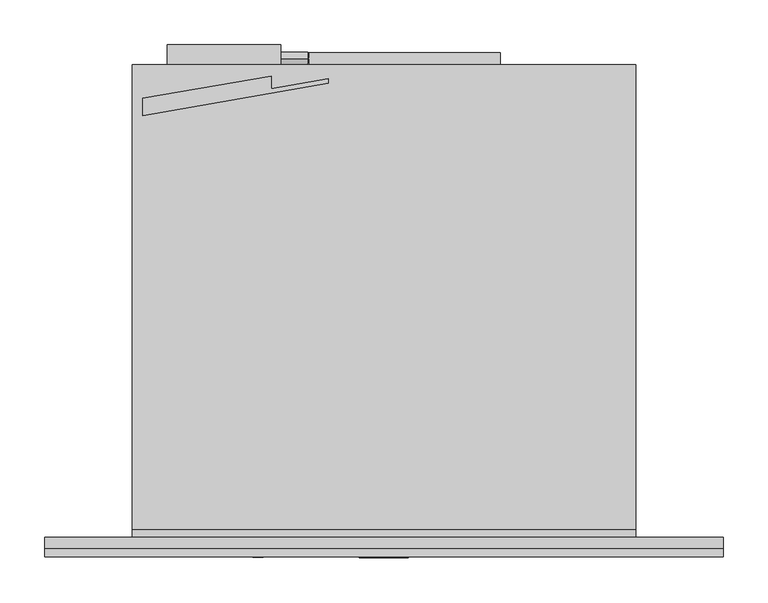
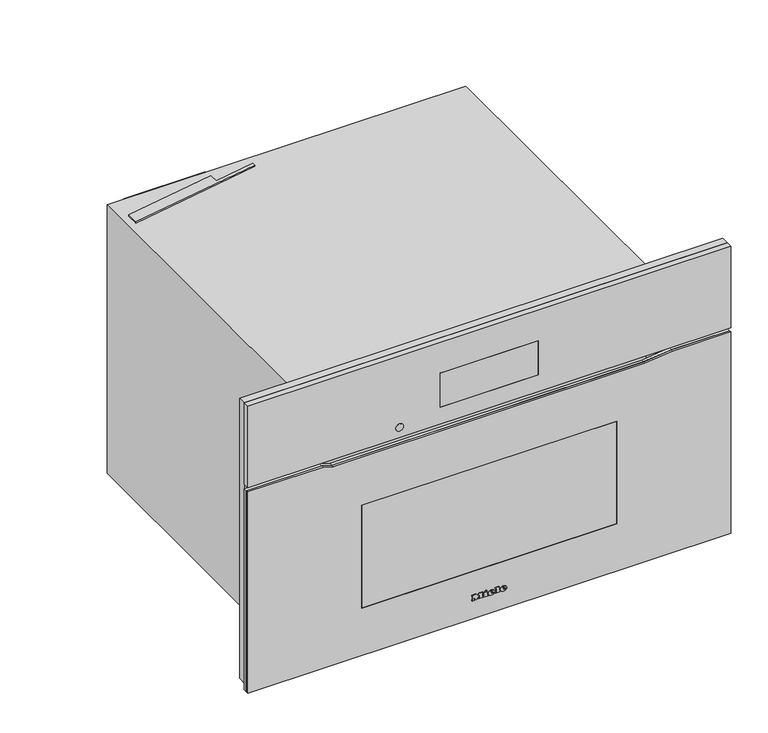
"""IFC4 building model written with IfcOpenShell, lengths in millimetres: proxy geometry, 12842590_USA_H7870BMX_OBSW : 22787066_USA_12842590_H7870BMX_OBSW."""

from ifc_helpers import new_model, si_unit, point, frame, frame_2d, origin, place, context, project, spatial, polyline, circle_curve, ellipse_curve, trimmed, segment, composite_curve, outline, extrude, faceted_brep, source, transform, mapped, element, save
from ifc_brep_helpers import plane_surface, cylinder_surface, revolved_surface, extruded_surface, advanced_brep


def specialty_equipment_b06b4cf4(model_context):
    return source(origin(), model_context, "Body", "SolidModel", [
        advanced_brep(
        [(21.28, -23.0, 36.133), (21.28, -23.0, 37.042), (27.301, -23.0, 37.042), (16.825, -23.0, 37.042), (19.3, -23.0, 34.0), (27.148, -23.0, 36.133), (24.43, -23.0, 36.133), (22.288, -23.0, 35.125), (21.28, -23.0, 38.194), (21.28, -23.0, 39.175), (22.819, -23.0, 39.175), (22.819, -23.0, 38.194), (21.28, -22.0, 36.133), (22.288, -22.0, 35.125), (24.43, -22.0, 36.133), (27.148, -22.0, 36.133), (19.3, -22.0, 34.0), (16.825, -22.0, 37.042), (27.301, -22.0, 37.042), (21.28, -22.0, 37.042), (21.28, -22.0, 38.194), (22.819, -22.0, 38.194), (22.819, -22.0, 39.175), (21.28, -22.0, 39.175)],
        [
            (0, 1),
            (1, 2),
            (2, 3, ellipse_curve(frame((22.063, -23.0, 37.042), z_axis=(0.0, -1.0, 0.0), x_axis=(-1.0, 0.0, 0.0)), 5.238, 4.329)),
            (3, 4, circle_curve(frame((20.3080491, -23.0, 37.348), z_axis=(0.0, -1.0, 0.0), x_axis=(0.0, 0.0, -1.0)), 3.4964649)),
            (4, 5, circle_curve(frame((21.9581428, -23.0, 39.724), z_axis=(0.0, -1.0, 0.0), x_axis=(0.0, 0.0, -1.0)), 6.3110933)),
            (5, 6),
            (6, 7, circle_curve(frame((22.7279412, -23.0, 36.97), z_axis=(0.0, 1.0, 0.0), x_axis=(0.0, 0.0, -1.0)), 1.896727)),
            (7, 0, circle_curve(frame((22.288, -23.0, 36.133), z_axis=(0.0, 1.0, 0.0), x_axis=(0.0, 0.0, -1.0)), 1.008)),
            (8, 9),
            (9, 10, circle_curve(frame((22.0495, -23.0, 39.175), z_axis=(0.0, 1.0, 0.0), x_axis=(0.0, 0.0, -1.0)), 0.7695)),
            (10, 11),
            (11, 8),
            (12, 13, circle_curve(frame((22.288, -22.0, 36.133), z_axis=(0.0, -1.0, 0.0), x_axis=(0.0, 0.0, -1.0)), 1.008)),
            (13, 14, circle_curve(frame((22.7279412, -22.0, 36.97), z_axis=(0.0, -1.0, 0.0), x_axis=(0.0, 0.0, -1.0)), 1.896727)),
            (14, 15),
            (15, 16, circle_curve(frame((21.9581428, -22.0, 39.724), z_axis=(0.0, 1.0, 0.0), x_axis=(0.0, 0.0, -1.0)), 6.3110933)),
            (16, 17, circle_curve(frame((20.3080491, -22.0, 37.348), z_axis=(0.0, 1.0, 0.0), x_axis=(0.0, 0.0, -1.0)), 3.4964649)),
            (17, 18, ellipse_curve(frame((22.063, -22.0, 37.042), z_axis=(0.0, 1.0, 0.0), x_axis=(-1.0, 0.0, 0.0)), 5.238, 4.329)),
            (18, 19),
            (19, 12),
            (20, 21),
            (21, 22),
            (22, 23, circle_curve(frame((22.0495, -22.0, 39.175), z_axis=(0.0, -1.0, 0.0), x_axis=(0.0, 0.0, -1.0)), 0.7695)),
            (23, 20),
            (0, 12),
            (19, 1),
            (18, 2),
            (5, 15),
            (14, 6),
            (17, 3),
            (13, 7),
            (16, 4),
            (8, 20),
            (23, 9),
            (22, 10),
            (21, 11),
        ],
        [
            plane_surface(frame((21.28, -23.0, 37.042), z_axis=(0.0, -1.0, 0.0), x_axis=(0.0, 0.0, 1.0))),
            plane_surface(frame((21.28, -22.0, 37.042), z_axis=(0.0, 1.0, 0.0), x_axis=(0.0, 0.0, -1.0))),
            plane_surface(frame((21.28, -23.0, 36.133), z_axis=(1.0, 0.0, 0.0), x_axis=(0.0, 1.0, 0.0))),
            plane_surface(frame((21.28, -23.0, 37.042), z_axis=(0.0, 0.0, -1.0), x_axis=(0.0, 1.0, 0.0))),
            plane_surface(frame((27.148, -23.0, 36.133), z_axis=(0.0, 0.0, 1.0), x_axis=(0.0, 1.0, 0.0))),
            extruded_surface(trimmed(ellipse_curve(frame((22.063, -21.0, 37.042), z_axis=(0.0, -1.0, 0.0), x_axis=(-1.0, 0.0, 0.0)), 5.238, 4.329), [point((27.301, -21.0, 37.042))], [point((16.825, -21.0, 37.042))], True, "CARTESIAN"), (0.0, -1.0, 0.0), 1.0),
            revolved_surface(polyline([(22.7279412, -22.0, 35.073273), (22.7279412, -23.0, 35.073273)]), (22.7279412, -22.0, 36.97), (0.0, 1.0, 0.0)),
            revolved_surface(polyline([(22.288, -22.0, 35.125), (22.288, -23.0, 35.125)]), (22.288, -22.0, 36.133), (0.0, 1.0, 0.0)),
            cylinder_surface(frame((20.3080491, -22.0, 37.348), z_axis=(0.0, -1.0, 0.0), x_axis=(0.0, 0.0, -1.0)), 3.4964649),
            cylinder_surface(frame((21.9581428, -22.0, 39.724), z_axis=(0.0, -1.0, 0.0), x_axis=(0.0, 0.0, -1.0)), 6.3110933),
            plane_surface(frame((21.28, -23.0, 38.194), z_axis=(1.0, 0.0, 0.0), x_axis=(0.0, 1.0, 0.0))),
            revolved_surface(polyline([(22.0495, -22.0, 38.405499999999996), (22.0495, -23.0, 38.405499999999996)]), (22.0495, -22.0, 39.175), (0.0, 1.0, 0.0)),
            plane_surface(frame((22.819, -23.0, 39.175), z_axis=(-1.0, 0.0, 0.0), x_axis=(0.0, 1.0, 0.0))),
            plane_surface(frame((22.819, -23.0, 38.194), z_axis=(0.0, 0.0, 1.0), x_axis=(0.0, 1.0, 0.0))),
        ],
        [
            (0, [[1, 2, 3, 4, 5, 6, 7, 8], [9, 10, 11, 12]]),
            (1, [[13, 14, 15, 16, 17, 18, 19, 20], [21, 22, 23, 24]]),
            (2, [[-1, 25, -20, 26]]),
            (3, [[-2, -26, -19, 27]]),
            (4, [[-6, 28, -15, 29]]),
            (5, [[-3, -27, -18, 30]]),
            (6, [[-7, -29, -14, 31]]),
            (7, [[-8, -31, -13, -25]]),
            (8, [[-4, -30, -17, 32]]),
            (9, [[-5, -32, -16, -28]]),
            (10, [[-9, 33, -24, 34]]),
            (11, [[-10, -34, -23, 35]]),
            (12, [[-11, -35, -22, 36]]),
            (13, [[-12, -36, -21, -33]]),
        ],
    ),
        advanced_brep(
        [(2.497, -23.0, 36.133), (2.497, -23.0, 37.042), (8.518, -23.0, 37.042), (-1.958, -23.0, 37.042), (0.517, -23.0, 34.0), (8.365, -23.0, 36.133), (5.647, -23.0, 36.133), (3.505, -23.0, 35.125), (2.497, -23.0, 38.194), (2.497, -23.0, 39.175), (4.036, -23.0, 39.175), (4.036, -23.0, 38.194), (2.497, -22.0, 36.133), (3.505, -22.0, 35.125), (5.647, -22.0, 36.133), (8.365, -22.0, 36.133), (0.517, -22.0, 34.0), (-1.958, -22.0, 37.042), (8.518, -22.0, 37.042), (2.497, -22.0, 37.042), (2.497, -22.0, 38.194), (4.036, -22.0, 38.194), (4.036, -22.0, 39.175), (2.497, -22.0, 39.175)],
        [
            (0, 1),
            (1, 2),
            (2, 3, ellipse_curve(frame((3.28, -23.0, 37.042), z_axis=(0.0, -1.0, 0.0), x_axis=(-1.0, 0.0, 0.0)), 5.238, 4.329)),
            (3, 4, circle_curve(frame((1.5250491, -23.0, 37.348), z_axis=(0.0, -1.0, 0.0), x_axis=(0.0, 0.0, -1.0)), 3.4964649)),
            (4, 5, circle_curve(frame((3.1751428, -23.0, 39.724), z_axis=(0.0, -1.0, 0.0), x_axis=(0.0, 0.0, -1.0)), 6.3110933)),
            (5, 6),
            (6, 7, circle_curve(frame((3.9449412, -23.0, 36.97), z_axis=(0.0, 1.0, 0.0), x_axis=(0.0, 0.0, -1.0)), 1.896727)),
            (7, 0, circle_curve(frame((3.505, -23.0, 36.133), z_axis=(0.0, 1.0, 0.0), x_axis=(0.0, 0.0, -1.0)), 1.008)),
            (8, 9),
            (9, 10, circle_curve(frame((3.2665, -23.0, 39.175), z_axis=(0.0, 1.0, 0.0), x_axis=(0.0, 0.0, -1.0)), 0.7695)),
            (10, 11),
            (11, 8),
            (12, 13, circle_curve(frame((3.505, -22.0, 36.133), z_axis=(0.0, -1.0, 0.0), x_axis=(0.0, 0.0, -1.0)), 1.008)),
            (13, 14, circle_curve(frame((3.9449412, -22.0, 36.97), z_axis=(0.0, -1.0, 0.0), x_axis=(0.0, 0.0, -1.0)), 1.896727)),
            (14, 15),
            (15, 16, circle_curve(frame((3.1751428, -22.0, 39.724), z_axis=(0.0, 1.0, 0.0), x_axis=(0.0, 0.0, -1.0)), 6.3110933)),
            (16, 17, circle_curve(frame((1.5250491, -22.0, 37.348), z_axis=(0.0, 1.0, 0.0), x_axis=(0.0, 0.0, -1.0)), 3.4964649)),
            (17, 18, ellipse_curve(frame((3.28, -22.0, 37.042), z_axis=(0.0, 1.0, 0.0), x_axis=(-1.0, 0.0, 0.0)), 5.238, 4.329)),
            (18, 19),
            (19, 12),
            (20, 21),
            (21, 22),
            (22, 23, circle_curve(frame((3.2665, -22.0, 39.175), z_axis=(0.0, -1.0, 0.0), x_axis=(0.0, 0.0, -1.0)), 0.7695)),
            (23, 20),
            (0, 12),
            (19, 1),
            (18, 2),
            (5, 15),
            (14, 6),
            (17, 3),
            (13, 7),
            (16, 4),
            (8, 20),
            (23, 9),
            (22, 10),
            (21, 11),
        ],
        [
            plane_surface(frame((2.497, -23.0, 37.042), z_axis=(0.0, -1.0, 0.0), x_axis=(0.0, 0.0, 1.0))),
            plane_surface(frame((2.497, -22.0, 37.042), z_axis=(0.0, 1.0, 0.0), x_axis=(0.0, 0.0, -1.0))),
            plane_surface(frame((2.497, -23.0, 36.133), z_axis=(1.0, 0.0, 0.0), x_axis=(0.0, 1.0, 0.0))),
            plane_surface(frame((2.497, -23.0, 37.042), z_axis=(0.0, 0.0, -1.0), x_axis=(0.0, 1.0, 0.0))),
            plane_surface(frame((8.365, -23.0, 36.133), z_axis=(0.0, 0.0, 1.0), x_axis=(0.0, 1.0, 0.0))),
            extruded_surface(trimmed(ellipse_curve(frame((3.28, -21.0, 37.042), z_axis=(0.0, -1.0, 0.0), x_axis=(-1.0, 0.0, 0.0)), 5.238, 4.329), [point((8.518, -21.0, 37.042))], [point((-1.958, -21.0, 37.042))], True, "CARTESIAN"), (0.0, -1.0, 0.0), 1.0),
            revolved_surface(polyline([(3.9449412, -22.0, 35.073273), (3.9449412, -23.0, 35.073273)]), (3.9449412, -22.0, 36.97), (0.0, 1.0, 0.0)),
            revolved_surface(polyline([(3.505, -22.0, 35.125), (3.505, -23.0, 35.125)]), (3.505, -22.0, 36.133), (0.0, 1.0, 0.0)),
            cylinder_surface(frame((1.5250491, -22.0, 37.348), z_axis=(0.0, -1.0, 0.0), x_axis=(0.0, 0.0, -1.0)), 3.4964649),
            cylinder_surface(frame((3.1751428, -22.0, 39.724), z_axis=(0.0, -1.0, 0.0), x_axis=(0.0, 0.0, -1.0)), 6.3110933),
            plane_surface(frame((2.497, -23.0, 38.194), z_axis=(1.0, 0.0, 0.0), x_axis=(0.0, 1.0, 0.0))),
            revolved_surface(polyline([(3.2665, -22.0, 38.405499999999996), (3.2665, -23.0, 38.405499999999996)]), (3.2665, -22.0, 39.175), (0.0, 1.0, 0.0)),
            plane_surface(frame((4.036, -23.0, 39.175), z_axis=(-1.0, 0.0, 0.0), x_axis=(0.0, 1.0, 0.0))),
            plane_surface(frame((4.036, -23.0, 38.194), z_axis=(0.0, 0.0, 1.0), x_axis=(0.0, 1.0, 0.0))),
        ],
        [
            (0, [[1, 2, 3, 4, 5, 6, 7, 8], [9, 10, 11, 12]]),
            (1, [[13, 14, 15, 16, 17, 18, 19, 20], [21, 22, 23, 24]]),
            (2, [[-1, 25, -20, 26]]),
            (3, [[-2, -26, -19, 27]]),
            (4, [[-6, 28, -15, 29]]),
            (5, [[-3, -27, -18, 30]]),
            (6, [[-7, -29, -14, 31]]),
            (7, [[-8, -31, -13, -25]]),
            (8, [[-4, -30, -17, 32]]),
            (9, [[-5, -32, -16, -28]]),
            (10, [[-9, 33, -24, 34]]),
            (11, [[-10, -34, -23, 35]]),
            (12, [[-11, -35, -22, 36]]),
            (13, [[-12, -36, -21, -33]]),
        ],
    ),
        extrude(outline(polyline([(42.469, -7.34), (41.011, -6.656), (42.433, -3.605), (43.891, -4.28), (42.469, -7.34)])), frame((0.0, -23.0, 0.0), z_axis=(0.0, 1.0, 0.0), x_axis=(0.0, 0.0, 1.0)), (0.0, 0.0, 1.0), 1.0),
        extrude(outline(polyline([(40.813, -9.563), (39.202, -9.563), (39.202, -8.492), (35.512, -8.492), (35.512, -9.563), (34.0, -9.563), (34.0, -2.462), (35.512, -2.462), (35.512, -3.506), (40.813, -3.506), (40.813, -9.563)])), frame((0.0, -23.0, 0.0), z_axis=(0.0, 1.0, 0.0), x_axis=(0.0, 0.0, 1.0)), (0.0, 0.0, 1.0), 1.0),
        extrude(outline(polyline([(41.533, 9.022), (41.533, 10.102), (35.512, 10.102), (35.512, 9.022), (34.0, 9.022), (34.0, 16.321), (35.512, 16.321), (35.512, 15.214), (43.0, 15.214), (43.0, 9.022), (41.533, 9.022)])), frame((0.0, -23.0, 0.0), z_axis=(0.0, 1.0, 0.0), x_axis=(0.0, 0.0, 1.0)), (0.0, 0.0, 1.0), 1.0),
        extrude(outline(polyline([(41.533, -27.5), (41.533, -26.411), (35.512, -26.411), (35.512, -27.5), (34.0, -27.5), (34.0, -23.54), (35.512, -23.54), (35.512, -24.62), (39.3341247, -24.62), (34.0, -20.597), (39.4402223, -16.556), (35.512, -16.556), (35.512, -17.663), (34.0, -17.663), (34.0, -10.481), (35.512, -10.481), (35.512, -11.624), (41.533, -11.624), (41.533, -10.481), (43.0, -10.481), (43.0, -15.962), (39.625, -18.59), (43.0, -21.227), (43.0, -27.5), (41.533, -27.5)])), frame((0.0, -23.0, 0.0), z_axis=(0.0, 1.0, 0.0), x_axis=(0.0, 0.0, 1.0)), (0.0, 0.0, 1.0), 1.0),
        extrude(outline(polyline([(337.0, -378.5), (4.0, -378.5), (4.0, 378.5), (337.0, 378.5), (337.0, 287.3542631), (332.0, 244.0), (332.0, -244.0), (337.0, -260.3542631), (337.0, -378.5)])), frame((0.0, -18.0, 0.0), z_axis=(0.0, 1.0, 0.0), x_axis=(0.0, 0.0, 1.0)), (0.0, 0.0, 1.0), 5.0),
        extrude(outline(polyline([(337.0, -378.5), (4.0, -378.5), (4.0, 378.5), (337.0, 378.5), (337.0, 287.3542631), (332.0, 244.0), (332.0, -244.0), (337.0, -260.3542631), (337.0, -378.5)]), holes=[polyline([(252.0, 199.5), (82.0, 199.5), (82.0, -199.5), (252.0, -199.5), (252.0, 199.5)])]), frame((0.0, -22.0, 0.0), z_axis=(0.0, 1.0, 0.0), x_axis=(0.0, 0.0, 1.0)), (0.0, 0.0, 1.0), 4.0),
        extrude(outline(polyline([(-199.5, -18.0), (199.5, -18.0), (199.5, -22.0), (-199.5, -22.0), (-199.5, -18.0)])), frame((0.0, 0.0, 82.0), z_axis=(0.0, 0.0, 1.0), x_axis=(1.0, 0.0, 0.0)), (0.0, 0.0, 1.0), 170.0),
        extrude(outline(polyline([(-76.5, -21.0), (76.5, -21.0), (76.5, -22.0), (-76.5, -22.0), (-76.5, -21.0)])), frame((0.0, 0.0, 372.0), z_axis=(0.0, 0.0, 1.0), x_axis=(1.0, 0.0, 0.0)), (0.0, 0.0, 1.0), 56.0),
        faceted_brep([(378.5, -13.0, 479.0), (378.5, -13.0, 344.0), (-378.5, -13.0, 344.0), (-378.5, -13.0, 479.0), (378.5, -22.0, 344.0), (-378.5, -22.0, 344.0), (378.5, -22.0, 479.0), (-378.5, -22.0, 479.0), (76.5, -22.0, 428.0), (76.5, -22.0, 372.0), (-76.5, -22.0, 372.0), (-76.5, -22.0, 428.0), (-76.5, -21.0, 372.0), (-76.5, -21.0, 428.0), (76.5, -21.0, 428.0), (76.5, -21.0, 372.0)], [[[0, 1, 2, 3]], [[4, 5, 2, 1]], [[6, 7, 5, 4], [8, 9, 10, 11]], [[12, 13, 11, 10]], [[13, 14, 8, 11]], [[7, 6, 0, 3]], [[5, 7, 3, 2]], [[6, 4, 1, 0]], [[14, 13, 12, 15]], [[14, 15, 9, 8]], [[15, 12, 10, 9]]]),
        extrude(outline(composite_curve([segment(trimmed(circle_curve(frame_2d((361.0, -140.5745637)), 6.0), [point((361.0, -146.5745637))], [point((361.0, -134.5745637))], False, "CARTESIAN"), True, "CONTINUOUS"), segment(trimmed(circle_curve(frame_2d((361.0, -140.5745637)), 6.0), [point((361.0, -134.5745637))], [point((361.0, -146.5745637))], False, "CARTESIAN"), True, "CONTINUOUS")], self_intersect=False)), frame((0.0, -22.5, 0.0), z_axis=(0.0, 1.0, 0.0), x_axis=(0.0, 0.0, 1.0)), (0.0, 0.0, 1.0), 1.0),
        extrude(outline(polyline([(-269.0, 490.2851942), (-126.0, 515.1547594), (-126.0, 500.9446163), (-62.0, 512.0750511), (-62.0, 507.0), (-269.0, 471.0), (-269.0, 490.2851942)])), frame((0.0, 0.0, 445.0), z_axis=(0.0, 0.0, 1.0), x_axis=(1.0, 0.0, 0.0)), (0.0, 0.0, 1.0), 2.0),
        extrude(outline(polyline([(528.134837, 358.3256163), (533.9911721, 358.3256163), (533.9911721, 357.3256163), (529.134837, 357.3256163), (529.134837, 353.8256163), (532.0849866, 353.8256163), (532.0849866, 352.8256163), (529.134837, 352.8256163), (529.134837, 349.3256163), (533.9911721, 349.3256163), (533.9911721, 348.3256163), (528.134837, 348.3256163), (528.134837, 358.3256163)])), frame((-85.0, 0.0, 0.0), z_axis=(1.0, 0.0, 0.0), x_axis=(0.0, 1.0, 0.0)), (0.0, 0.0, 1.0), 1.0),
        extrude(outline(polyline([(535.4911721, 348.3256163), (535.4911721, 358.3256163), (536.5959622, 358.3256163), (536.5959622, 349.3256163), (540.4911721, 349.3256163), (540.4911721, 348.3256163), (535.4911721, 348.3256163)])), frame((-85.0, 0.0, 0.0), z_axis=(1.0, 0.0, 0.0), x_axis=(0.0, 1.0, 0.0)), (0.0, 0.0, 1.0), 1.0),
        extrude(outline(composite_curve([segment(trimmed(circle_curve(frame_2d((534.0, 353.0)), 7.5), [point((534.0, 345.5))], [point((534.0, 360.5))], False, "CARTESIAN"), True, "CONTINUOUS"), segment(trimmed(circle_curve(frame_2d((534.0, 353.0)), 7.5), [point((534.0, 360.5))], [point((534.0, 345.5))], False, "CARTESIAN"), True, "CONTINUOUS")], self_intersect=False)), frame((-115.0, 0.0, 0.0), z_axis=(1.0, 0.0, 0.0), x_axis=(0.0, 1.0, 0.0)), (0.0, 0.0, 1.0), 30.0),
        extrude(outline(polyline([(-115.0, 528.0), (-242.0, 528.0), (-242.0, 550.0), (-115.0, 550.0), (-115.0, 528.0)])), frame((0.0, 0.0, 325.0), z_axis=(0.0, 0.0, 1.0), x_axis=(1.0, 0.0, 0.0)), (0.0, 0.0, 1.0), 103.0),
        faceted_brep([(272.5, 25.0, 344.0), (-272.5, 25.0, 344.0), (-272.5, 25.0, 15.0), (272.5, 25.0, 15.0), (-235.0, 25.0, 270.0), (235.0, 25.0, 270.0), (235.0, 25.0, 60.0), (-235.0, 25.0, 60.0), (272.5, 0.0, 344.0), (-272.5, 0.0, 344.0), (-272.5, 0.0, 15.0), (272.5, 0.0, 15.0), (281.0, 0.0, 0.0), (281.0, 528.0, 0.0), (281.0, 528.0, 445.0), (281.0, 9.0, 445.0), (281.0, 9.0, 440.0), (281.0, 0.0, 440.0), (-281.0, 9.0, 445.0), (-281.0, 528.0, 445.0), (-281.0, 528.0, 0.0), (-281.0, 0.0, 0.0), (-281.0, 0.0, 440.0), (-281.0, 9.0, 440.0), (235.0, 433.0, 270.0), (-235.0, 433.0, 270.0), (-235.0, 433.0, 60.0), (235.0, 433.0, 60.0)], [[[0, 1, 2, 3], [4, 5, 6, 7]], [[1, 0, 8, 9]], [[2, 1, 9, 10]], [[0, 3, 11, 8]], [[12, 13, 14, 15, 16, 17]], [[18, 19, 20, 21, 22, 23]], [[13, 12, 21, 20]], [[14, 13, 20, 19]], [[15, 14, 19, 18]], [[21, 12, 17, 22], [9, 8, 11, 10]], [[24, 25, 26, 27]], [[25, 24, 5, 4]], [[26, 25, 4, 7]], [[27, 26, 7, 6]], [[24, 27, 6, 5]], [[3, 2, 10, 11]], [[16, 23, 22, 17]], [[23, 16, 15, 18]]]),
        extrude(outline(polyline([(130.0, 528.0), (-130.0, 528.0), (-130.0, 541.0), (130.0, 541.0), (130.0, 528.0)])), frame((0.0, 0.0, 36.0), z_axis=(0.0, 0.0, 1.0), x_axis=(1.0, 0.0, 0.0)), (0.0, 0.0, 1.0), 260.0),
        extrude(outline(polyline([(15.0, 378.5), (479.0, 378.5), (479.0, -378.5), (15.0, -378.5), (15.0, -272.5), (344.0, -272.5), (344.0, 272.5), (15.0, 272.5), (15.0, 378.5)])), frame((0.0, -13.0, 0.0), z_axis=(0.0, 1.0, 0.0), x_axis=(0.0, 0.0, 1.0)), (0.0, 0.0, 1.0), 13.0),
    ])


if __name__ == "__main__":
    model = new_model("IFC4")
    model_context = context("Model", 3, world=origin())
    ifc_project = project(units=[si_unit("LENGTHUNIT", "METRE", prefix="MILLI")], contexts=[model_context])
    site = spatial("IfcSite", under=ifc_project)
    building = spatial("IfcBuilding", under=site)
    placement = place(None, origin())
    specialty_equipment_shape = specialty_equipment_b06b4cf4(model_context)
    element("IfcBuildingElementProxy", 1, Name="12842590_USA_H7870BMX_OBSW : 22787066_USA_12842590_H7870BMX_OBSW", ObjectType="12842590_USA_H7870BMX_OBSW : 22787066_USA_12842590_H7870BMX_OBSW", at=placement, inside=building, context=model_context, shape_type="MappedRepresentation", body=[
        mapped(specialty_equipment_shape, transform((0.0, 0.0, 0.0), x_axis=(1.0, 0.0, 0.0), y_axis=(0.0, 1.0, 0.0), z_axis=(0.0, 0.0, 1.0))),
    ])
    save(model, "model.ifc")
